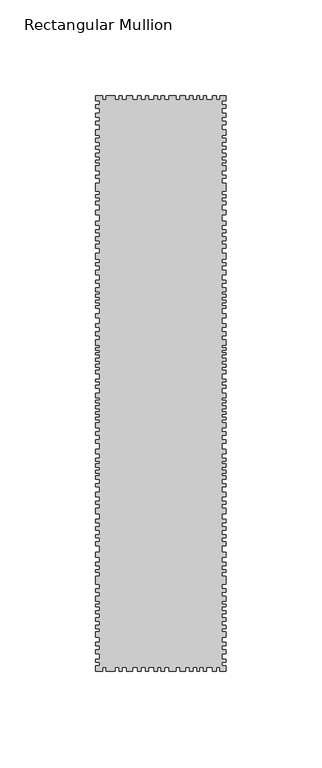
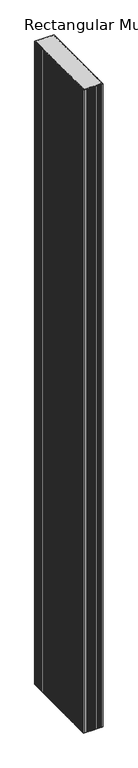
"""IFC4 building model written with IfcOpenShell, lengths in millimetres: member geometry, Rectangular Mullion : DucoSun Cubic Design louvre 300."""

from ifc_helpers import new_model, si_unit, frame, origin, place, context, project, spatial, polyline, outline, extrude, source, transform, mapped, element, save


def rectangular_mullion_2b216a6a(model_context):
    return source(origin(), model_context, "Body", "SweptSolid", [
        extrude(outline(polyline([(-68.0, 297.3782451), (-68.0, 300.0), (-64.4544414, 300.0), (-64.4544414, 298.0), (-62.627942, 298.0), (-62.627942, 300.0), (-57.9842994, 300.0), (-57.9842994, 298.0), (-55.8172663, 298.0), (-55.8172663, 300.0), (-54.3003431, 300.0), (-54.3003431, 298.0), (-51.9475642, 298.0), (-51.9475642, 300.0), (-48.8827601, 300.0), (-48.8827601, 298.0), (-46.0965746, 298.0), (-46.0965746, 300.0), (-44.3939057, 300.0), (-44.3939057, 298.0), (-42.0101692, 298.0), (-42.0101692, 300.0), (-40.5242036, 300.0), (-40.5242036, 298.0), (-37.4884678, 298.0), (-37.4884678, 300.0), (-35.7094289, 300.0), (-35.7094289, 298.0), (-34.0, 298.0), (-34.0, 300.0), (-32.1513512, 300.0), (-32.1513512, 298.0), (-29.7871022, 298.0), (-29.7871022, 300.0), (-26.0183489, 300.0), (-26.0183489, 298.0), (-23.9584092, 298.0), (-23.9584092, 300.0), (-21.2664425, 300.0), (-21.2664425, 298.0), (-18.9958271, 298.0), (-18.9958271, 300.0), (-17.1231547, 300.0), (-17.1231547, 298.0), (-15.0632149, 298.0), (-15.0632149, 300.0), (-13.7289358, 300.0), (-13.7289358, 298.0), (-11.6924045, 298.0), (-11.6924045, 300.0), (-10.1006329, 300.0), (-10.1006329, 298.0), (-7.0341317, 298.0), (-7.0341317, 300.0), (-5.0678256, 300.0), (-5.0678256, 298.0), (-3.1249279, 298.0), (-3.1249279, 300.0), (0.0, 300.0), (0.0, 297.3782451), (-2.0, 297.3782451), (-2.0, 295.4241521), (0.0, 295.4241521), (0.0, 293.6532553), (-2.0, 293.6532553), (-2.0, 290.9460223), (0.0, 290.9460223), (0.0, 288.9105087), (-2.0, 288.9105087), (-2.0, 286.7121541), (0.0, 286.7121541), (0.0, 285.0023227), (-2.0, 285.0023227), (-2.0, 282.3561551), (0.0, 282.3561551), (0.0, 279.3843053), (-2.0, 279.3843053), (-2.0, 277.8917893), (0.0, 277.8917893), (0.0, 275.8425117), (-2.0, 275.8425117), (-2.0, 273.8680636), (0.0, 273.8680636), (0.0, 272.1582322), (-2.0, 272.1582322), (-2.0, 270.0820083), (0.0, 270.0820083), (0.0, 268.3111116), (-2.0, 268.3111116), (-2.0, 266.4995045), (0.0, 266.4995045), (0.0, 265.0713495), (-2.0, 265.0713495), (-2.0, 263.4577392), (0.0, 263.4577392), (0.0, 261.0328231), (-2.0, 261.0328231), (-2.0, 258.5725067), (0.0, 258.5725067), (0.0, 257.0325964), (-2.0, 257.0325964), (-2.0, 254.5014796), (0.0, 254.5014796), (0.0, 250.4127524), (-2.0, 250.4127524), (-2.0, 248.4126391), (0.0, 248.4126391), (0.0, 246.8373286), (-2.0, 246.8373286), (-2.0, 244.9965163), (0.0, 244.9965163), (0.0, 243.3504053), (-2.0, 243.3504053), (-2.0, 240.3767855), (0.0, 240.3767855), (0.0, 237.9545244), (-2.0, 237.9545244), (-2.0, 234.5552168), (0.0, 234.5552168), (0.0, 232.5197032), (-2.0, 232.5197032), (-2.0, 230.239928), (0.0, 230.239928), (0.0, 228.6929377), (-2.0, 228.6929377), (-2.0, 226.4335177), (0.0, 226.4335177), (0.0, 224.5608452), (-2.0, 224.5608452), (-2.0, 222.6271073), (0.0, 222.6271073), (0.0, 220.5508835), (-2.0, 220.5508835), (-2.0, 218.0064916), (0.0, 218.0064916), (0.0, 214.9328661), (-2.0, 214.9328661), (-2.0, 212.9177077), (0.0, 212.9177077), (0.0, 211.4114277), (-2.0, 211.4114277), (-2.0, 208.9688114), (0.0, 208.9688114), (0.0, 206.7118273), (-2.0, 206.7118273), (-2.0, 203.8852623), (0.0, 203.8852623), (0.0, 202.4316003), (-2.0, 202.4316003), (-2.0, 199.9011516), (0.0, 199.9011516), (0.0, 197.8552569), (-2.0, 197.8552569), (-2.0, 196.6169522), (0.0, 196.6169522), (0.0, 195.0825312), (-2.0, 195.0825312), (-2.0, 193.4673512), (0.0, 193.4673512), (0.0, 192.0675286), (-2.0, 192.0675286), (-2.0, 190.5869469), (0.0, 190.5869469), (0.0, 189.1602046), (-2.0, 189.1602046), (-2.0, 186.3310055), (0.0, 186.3310055), (0.0, 184.2608252), (-2.0, 184.2608252), (-2.0, 181.1919832), (0.0, 181.1919832), (0.0, 179.2537672), (-2.0, 179.2537672), (-2.0, 176.9360418), (0.0, 176.9360418), (0.0, 175.0004598), (-2.0, 175.0004598), (-2.0, 172.9007258), (0.0, 172.9007258), (0.0, 170.1010805), (-2.0, 170.1010805), (-2.0, 168.8089365), (0.0, 168.8089365), (0.0, 167.3014351), (-2.0, 167.3014351), (-2.0, 166.0362108), (0.0, 166.0362108), (0.0, 165.0401831), (-2.0, 165.0401831), (-2.0, 163.2096458), (0.0, 163.2096458), (0.0, 161.6483051), (-2.0, 161.6483051), (-2.0, 160.1408038), (0.0, 160.1408038), (0.0, 158.6063828), (-2.0, 158.6063828), (-2.0, 157.0719618), (0.0, 157.0719618), (0.0, 155.0799064), (-2.0, 155.0799064), (-2.0, 152.3762692), (0.0, 152.3762692), (0.0, 150.8903036), (-2.0, 150.8903036), (-2.0, 149.1257194), (0.0, 149.1257194), (0.0, 147.6087962), (-2.0, 147.6087962), (-2.0, 144.8535683), (0.0, 144.8535683), (0.0, 142.7484504), (-2.0, 142.7484504), (-2.0, 141.4172729), (0.0, 141.4172729), (0.0, 139.9622649), (-2.0, 139.9622649), (-2.0, 138.3524688), (0.0, 138.3524688), (0.0, 136.8355456), (-2.0, 136.8355456), (-2.0, 135.1947919), (0.0, 135.1947919), (0.0, 133.9255296), (-2.0, 133.9255296), (-2.0, 132.5014792), (0.0, 132.5014792), (0.0, 131.1083865), (-2.0, 131.1083865), (-2.0, 129.6843361), (0.0, 129.6843361), (0.0, 127.0529387), (-2.0, 127.0529387), (-2.0, 124.9787784), (0.0, 124.9787784), (0.0, 123.0284485), (-2.0, 123.0284485), (-2.0, 120.7995001), (0.0, 120.7995001), (0.0, 118.8182126), (-2.0, 118.8182126), (-2.0, 115.6914933), (0.0, 115.6914933), (0.0, 113.4935025), (-2.0, 113.4935025), (-2.0, 110.954978), (0.0, 110.954978), (0.0, 109.4070971), (-2.0, 109.4070971), (-2.0, 108.1378348), (0.0, 108.1378348), (0.0, 106.4970812), (-2.0, 106.4970812), (-2.0, 104.8253698), (0.0, 104.8253698), (0.0, 103.3394042), (-2.0, 103.3394042), (-2.0, 102.0391843), (0.0, 102.0391843), (0.0, 100.0578969), (-2.0, 100.0578969), (-2.0, 97.6741604), (0.0, 97.6741604), (0.0, 96.0953219), (-2.0, 96.0953219), (-2.0, 93.3091364), (0.0, 93.3091364), (0.0, 91.0182728), (-2.0, 91.0182728), (-2.0, 88.572621), (0.0, 88.572621), (0.0, 87.1485707), (-2.0, 87.1485707), (-2.0, 85.0124951), (0.0, 85.0124951), (0.0, 82.1643944), (-2.0, 82.1643944), (-2.0, 79.3782089), (0.0, 79.3782089), (0.0, 77.427879), (-2.0, 77.427879), (-2.0, 75.4156339), (0.0, 75.4156339), (0.0, 73.6510498), (-2.0, 73.6510498), (-2.0, 71.1744404), (0.0, 71.1744404), (0.0, 69.6884748), (-2.0, 69.6884748), (-2.0, 67.5523993), (0.0, 67.5523993), (0.0, 65.4163237), (-2.0, 65.4163237), (-2.0, 62.1967316), (0.0, 62.1967316), (0.0, 59.5343765), (-2.0, 59.5343765), (-2.0, 56.7791486), (0.0, 56.7791486), (0.0, 55.0764797), (-2.0, 55.0764797), (-2.0, 52.9404041), (0.0, 52.9404041), (0.0, 51.6092266), (-2.0, 51.6092266), (-2.0, 49.5660239), (0.0, 49.5660239), (0.0, 45.512038), (-2.0, 45.512038), (-2.0, 43.0030092), (0.0, 43.0030092), (0.0, 41.3312979), (-2.0, 41.3312979), (-2.0, 39.0404342), (0.0, 39.0404342), (0.0, 36.5638249), (-2.0, 36.5638249), (-2.0, 35.015944), (0.0, 35.015944), (0.0, 33.5609361), (-2.0, 33.5609361), (-2.0, 31.5796486), (0.0, 31.5796486), (0.0, 30.0627254), (-2.0, 30.0627254), (-2.0, 27.8337769), (0.0, 27.8337769), (0.0, 26.1620656), (-2.0, 26.1620656), (-2.0, 24.0259901), (0.0, 24.0259901), (0.0, 22.0756602), (-2.0, 22.0756602), (-2.0, 20.6516099), (0.0, 20.6516099), (0.0, 17.7415939), (-2.0, 17.7415939), (-2.0, 15.2030693), (0.0, 15.2030693), (0.0, 13.1908242), (-2.0, 13.1908242), (-2.0, 11.2404944), (0.0, 11.2404944), (0.0, 9.1353764), (-2.0, 9.1353764), (-2.0, 6.2563181), (0.0, 6.2563181), (0.0, 4.6155644), (-2.0, 4.6155644), (-2.0, 2.8509802), (0.0, 2.8509802), (0.0, 0.0), (-3.1249279, 0.0), (-3.1249279, 2.0), (-5.0678256, 2.0), (-5.0678256, 0.0), (-7.0341317, 0.0), (-7.0341317, 2.0), (-10.1006329, 2.0), (-10.1006329, 0.0), (-11.6924045, 0.0), (-11.6924045, 2.0), (-13.7289358, 2.0), (-13.7289358, 0.0), (-15.0632149, 0.0), (-15.0632149, 2.0), (-17.1231547, 2.0), (-17.1231547, 0.0), (-18.9958271, 0.0), (-18.9958271, 2.0), (-21.2664425, 2.0), (-21.2664425, 0.0), (-23.9584092, 0.0), (-23.9584092, 2.0), (-26.0183489, 2.0), (-26.0183489, 0.0), (-29.7871022, 0.0), (-29.7871022, 2.0), (-32.1513512, 2.0), (-32.1513512, 0.0), (-34.0, 0.0), (-34.0, 2.0), (-35.7094289, 2.0), (-35.7094289, 0.0), (-37.4884678, 0.0), (-37.4884678, 2.0), (-40.5242036, 2.0), (-40.5242036, 0.0), (-42.0101692, 0.0), (-42.0101692, 2.0), (-44.3939057, 2.0), (-44.3939057, 0.0), (-46.0965746, 0.0), (-46.0965746, 2.0), (-48.8827601, 2.0), (-48.8827601, 0.0), (-51.9475642, 0.0), (-51.9475642, 2.0), (-54.3003431, 2.0), (-54.3003431, 0.0), (-55.8172663, 0.0), (-55.8172663, 2.0), (-57.9842994, 2.0), (-57.9842994, 0.0), (-62.627942, 0.0), (-62.627942, 2.0), (-64.4544414, 2.0), (-64.4544414, 0.0), (-68.0, 0.0), (-68.0, 2.8509802), (-66.0, 2.8509802), (-66.0, 4.6155644), (-68.0, 4.6155644), (-68.0, 6.2563181), (-66.0, 6.2563181), (-66.0, 9.1353764), (-68.0, 9.1353764), (-68.0, 11.2404944), (-66.0, 11.2404944), (-66.0, 13.1908242), (-68.0, 13.1908242), (-68.0, 15.2030693), (-66.0, 15.2030693), (-66.0, 17.7415939), (-68.0, 17.7415939), (-68.0, 20.6516099), (-66.0, 20.6516099), (-66.0, 22.0756602), (-68.0, 22.0756602), (-68.0, 24.0259901), (-66.0, 24.0259901), (-66.0, 26.1620656), (-68.0, 26.1620656), (-68.0, 27.8337769), (-66.0, 27.8337769), (-66.0, 30.0627254), (-68.0, 30.0627254), (-68.0, 31.5796486), (-66.0, 31.5796486), (-66.0, 33.5609361), (-68.0, 33.5609361), (-68.0, 35.015944), (-66.0, 35.015944), (-66.0, 36.5638249), (-68.0, 36.5638249), (-68.0, 39.0404342), (-66.0, 39.0404342), (-66.0, 41.3312979), (-68.0, 41.3312979), (-68.0, 43.0030092), (-66.0, 43.0030092), (-66.0, 45.512038), (-68.0, 45.512038), (-68.0, 49.5660239), (-66.0, 49.5660239), (-66.0, 51.6092266), (-68.0, 51.6092266), (-68.0, 52.9404041), (-66.0, 52.9404041), (-66.0, 55.0764797), (-68.0, 55.0764797), (-68.0, 56.7791486), (-66.0, 56.7791486), (-66.0, 59.5343765), (-68.0, 59.5343765), (-68.0, 62.1967316), (-66.0, 62.1967316), (-66.0, 65.4163237), (-68.0, 65.4163237), (-68.0, 67.5523993), (-66.0, 67.5523993), (-66.0, 69.6884748), (-68.0, 69.6884748), (-68.0, 71.1744404), (-66.0, 71.1744404), (-66.0, 73.6510498), (-68.0, 73.6510498), (-68.0, 75.4156339), (-66.0, 75.4156339), (-66.0, 77.427879), (-68.0, 77.427879), (-68.0, 79.3782089), (-66.0, 79.3782089), (-66.0, 82.1643944), (-68.0, 82.1643944), (-68.0, 85.0124951), (-66.0, 85.0124951), (-66.0, 87.1485707), (-68.0, 87.1485707), (-68.0, 88.572621), (-66.0, 88.572621), (-66.0, 91.0182728), (-68.0, 91.0182728), (-68.0, 93.3091364), (-66.0, 93.3091364), (-66.0, 96.0953219), (-68.0, 96.0953219), (-68.0, 97.6741604), (-66.0, 97.6741604), (-66.0, 100.0578969), (-68.0, 100.0578969), (-68.0, 102.0391843), (-66.0, 102.0391843), (-66.0, 103.3394042), (-68.0, 103.3394042), (-68.0, 104.8253698), (-66.0, 104.8253698), (-66.0, 106.4970812), (-68.0, 106.4970812), (-68.0, 108.1378348), (-66.0, 108.1378348), (-66.0, 109.4070971), (-68.0, 109.4070971), (-68.0, 110.954978), (-66.0, 110.954978), (-66.0, 113.4935025), (-68.0, 113.4935025), (-68.0, 115.6914933), (-66.0, 115.6914933), (-66.0, 118.8182126), (-68.0, 118.8182126), (-68.0, 120.7995001), (-66.0, 120.7995001), (-66.0, 123.0284485), (-68.0, 123.0284485), (-68.0, 124.9787784), (-66.0, 124.9787784), (-66.0, 127.0529387), (-68.0, 127.0529387), (-68.0, 129.6843361), (-66.0, 129.6843361), (-66.0, 131.1083865), (-68.0, 131.1083865), (-68.0, 132.5014792), (-66.0, 132.5014792), (-66.0, 133.9255296), (-68.0, 133.9255296), (-68.0, 135.1947919), (-66.0, 135.1947919), (-66.0, 136.8355456), (-68.0, 136.8355456), (-68.0, 138.3524688), (-66.0, 138.3524688), (-66.0, 139.9622649), (-68.0, 139.9622649), (-68.0, 141.4172729), (-66.0, 141.4172729), (-66.0, 142.7484504), (-68.0, 142.7484504), (-68.0, 144.8535683), (-66.0, 144.8535683), (-66.0, 147.6087962), (-68.0, 147.6087962), (-68.0, 149.1257194), (-66.0, 149.1257194), (-66.0, 150.8903036), (-68.0, 150.8903036), (-68.0, 152.3762692), (-66.0, 152.3762692), (-66.0, 155.0799064), (-68.0, 155.0799064), (-68.0, 157.0719618), (-66.0, 157.0719618), (-66.0, 158.6063828), (-68.0, 158.6063828), (-68.0, 160.1408038), (-66.0, 160.1408038), (-66.0, 161.6483051), (-68.0, 161.6483051), (-68.0, 163.2096458), (-66.0, 163.2096458), (-66.0, 165.0401831), (-68.0, 165.0401831), (-68.0, 166.0362108), (-66.0, 166.0362108), (-66.0, 167.3014351), (-68.0, 167.3014351), (-68.0, 168.8089365), (-66.0, 168.8089365), (-66.0, 170.1010805), (-68.0, 170.1010805), (-68.0, 172.9007258), (-66.0, 172.9007258), (-66.0, 175.0004598), (-68.0, 175.0004598), (-68.0, 176.9360418), (-66.0, 176.9360418), (-66.0, 179.2537672), (-68.0, 179.2537672), (-68.0, 181.1919832), (-66.0, 181.1919832), (-66.0, 184.2608252), (-68.0, 184.2608252), (-68.0, 186.3310055), (-66.0, 186.3310055), (-66.0, 189.1602046), (-68.0, 189.1602046), (-68.0, 190.5869469), (-66.0, 190.5869469), (-66.0, 192.0675286), (-68.0, 192.0675286), (-68.0, 193.4673512), (-66.0, 193.4673512), (-66.0, 195.0825312), (-68.0, 195.0825312), (-68.0, 196.6169522), (-66.0, 196.6169522), (-66.0, 197.8552569), (-68.0, 197.8552569), (-68.0, 199.9011516), (-66.0, 199.9011516), (-66.0, 202.4316003), (-68.0, 202.4316003), (-68.0, 203.8852623), (-66.0, 203.8852623), (-66.0, 206.7118273), (-68.0, 206.7118273), (-68.0, 208.9688114), (-66.0, 208.9688114), (-66.0, 211.4114277), (-68.0, 211.4114277), (-68.0, 212.9177077), (-66.0, 212.9177077), (-66.0, 214.9328661), (-68.0, 214.9328661), (-68.0, 218.0064916), (-66.0, 218.0064916), (-66.0, 220.5508835), (-68.0, 220.5508835), (-68.0, 222.6271073), (-66.0, 222.6271073), (-66.0, 224.5608452), (-68.0, 224.5608452), (-68.0, 226.4335177), (-66.0, 226.4335177), (-66.0, 228.6929377), (-68.0, 228.6929377), (-68.0, 230.239928), (-66.0, 230.239928), (-66.0, 232.5197032), (-68.0, 232.5197032), (-68.0, 234.5552168), (-66.0, 234.5552168), (-66.0, 237.9545244), (-68.0, 237.9545244), (-68.0, 240.3767855), (-66.0, 240.3767855), (-66.0, 243.3504053), (-68.0, 243.3504053), (-68.0, 244.9965163), (-66.0, 244.9965163), (-66.0, 246.8373286), (-68.0, 246.8373286), (-68.0, 248.4126391), (-66.0, 248.4126391), (-66.0, 250.4127524), (-68.0, 250.4127524), (-68.0, 254.5014796), (-66.0, 254.5014796), (-66.0, 257.0325964), (-68.0, 257.0325964), (-68.0, 258.5725067), (-66.0, 258.5725067), (-66.0, 261.0328231), (-68.0, 261.0328231), (-68.0, 263.4577392), (-66.0, 263.4577392), (-66.0, 265.0713495), (-68.0, 265.0713495), (-68.0, 266.4995045), (-66.0, 266.4995045), (-66.0, 268.3111116), (-68.0, 268.3111116), (-68.0, 270.0820083), (-66.0, 270.0820083), (-66.0, 272.1582322), (-68.0, 272.1582322), (-68.0, 273.8680636), (-66.0, 273.8680636), (-66.0, 275.8425117), (-68.0, 275.8425117), (-68.0, 277.8917893), (-66.0, 277.8917893), (-66.0, 279.3843053), (-68.0, 279.3843053), (-68.0, 282.3561551), (-66.0, 282.3561551), (-66.0, 285.0023227), (-68.0, 285.0023227), (-68.0, 286.7121541), (-66.0, 286.7121541), (-66.0, 288.9105087), (-68.0, 288.9105087), (-68.0, 290.9460223), (-66.0, 290.9460223), (-66.0, 293.6532553), (-68.0, 293.6532553), (-68.0, 295.4241521), (-66.0, 295.4241521), (-66.0, 297.3782451), (-68.0, 297.3782451)])), frame((0.0, 0.0, -2400.0), z_axis=(0.0, 0.0, 1.0), x_axis=(1.0, 0.0, 0.0)), (0.0, 0.0, 1.0), 2400.0),
    ])


if __name__ == "__main__":
    model = new_model("IFC4")
    model_context = context("Model", 3, world=origin())
    ifc_project = project(units=[si_unit("LENGTHUNIT", "METRE", prefix="MILLI")], contexts=[model_context])
    site = spatial("IfcSite", under=ifc_project)
    building = spatial("IfcBuilding", under=site)
    placement = place(None, origin())
    rectangular_mullion_shape = rectangular_mullion_2b216a6a(model_context)
    element("IfcMember", 1, ObjectType="Rectangular Mullion : DucoSun Cubic Design louvre 300", at=placement, inside=building, context=model_context, shape_type="MappedRepresentation", body=[
        mapped(rectangular_mullion_shape, transform((0.0, 0.0, 0.0), x_axis=(1.0, 0.0, 0.0), y_axis=(0.0, 1.0, 0.0), z_axis=(0.0, 0.0, 1.0))),
    ])
    save(model, "model.ifc")
